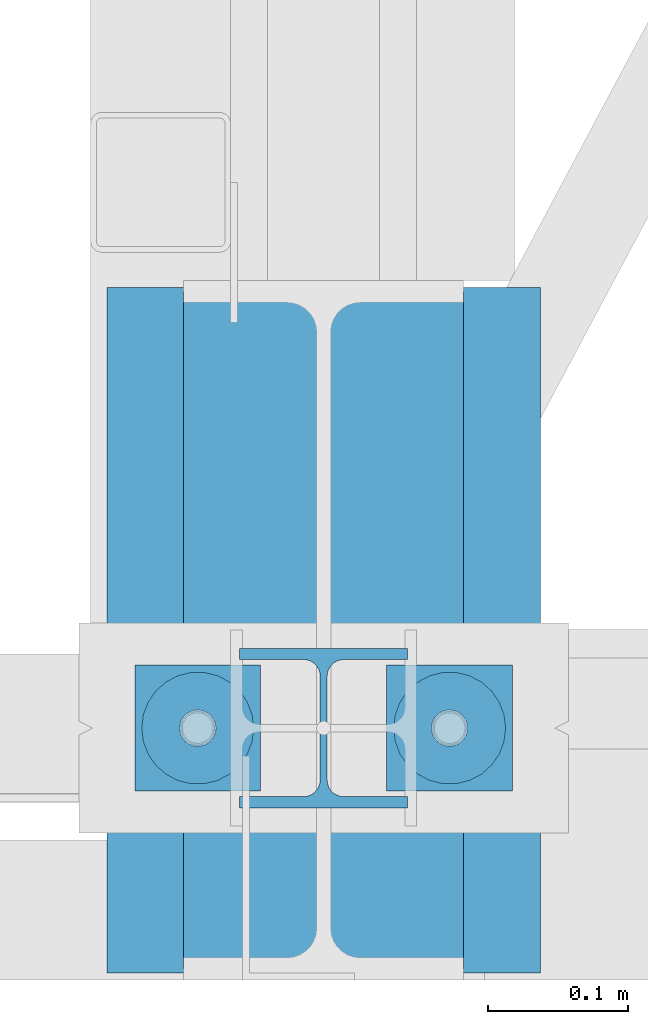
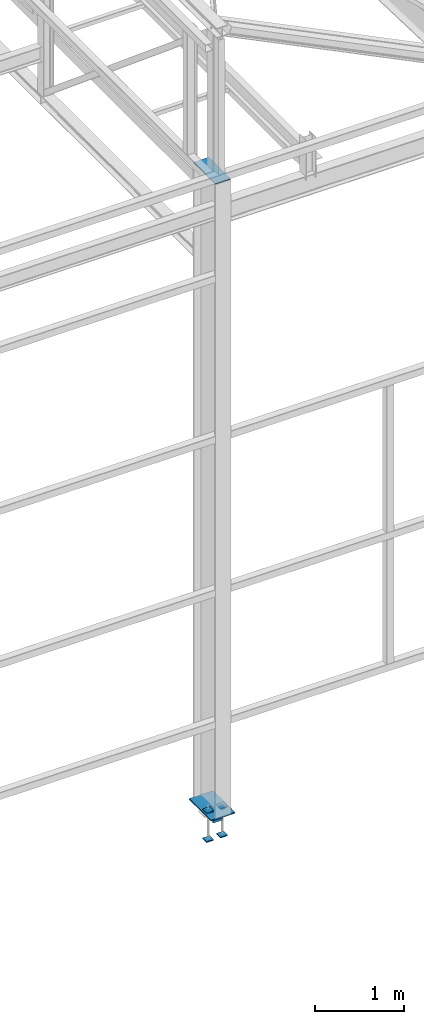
# One storey, part 86 of 123: 7 discrete accessories, 3 mechanical fasteners, 3 elements without a shape of their own.
"""IFC2X3 building model written with IfcOpenShell, lengths in millimetres."""

from ifc_helpers import new_model, si_unit, frame, origin_with_axes, origin_2d_with_axis, place, context, subcontext, project, spatial, polyline, circle, i_section, outline, extrude, source, transform, mapped, material, type_object, element, aggregate, save


model = new_model("IFC2X3")

# Units and contexts
model_context = context("Model", 3, precision=1e-05, world=origin_with_axes())
body_context = subcontext(model_context, "Body", "Model", "MODEL_VIEW")
ifc_project = project(units=[si_unit("LENGTHUNIT", "METRE", prefix="MILLI"), si_unit("AREAUNIT", "SQUARE_METRE"), si_unit("VOLUMEUNIT", "CUBIC_METRE"), si_unit("MASSUNIT", "GRAM", prefix="KILO"), si_unit("TIMEUNIT", "SECOND"), si_unit("PLANEANGLEUNIT", "RADIAN"), si_unit("SOLIDANGLEUNIT", "STERADIAN"), si_unit("THERMODYNAMICTEMPERATUREUNIT", "DEGREE_CELSIUS"), si_unit("LUMINOUSINTENSITYUNIT", "LUMEN")], contexts=[model_context])

# Site, building, storey
site_placement = place(None, origin_with_axes())
site = spatial("IfcSite", under=ifc_project, at=site_placement, Name="Undefined", CompositionType="ELEMENT")
building_placement = place(site_placement, origin_with_axes())
building = spatial("IfcBuilding", under=site, at=building_placement, Name="Undefined", CompositionType="ELEMENT")
storey_placement = place(building_placement, origin_with_axes())
storey = spatial("IfcBuildingStorey", under=building, at=storey_placement, Name="Undefined", CompositionType="ELEMENT", Elevation=0.0)

# Assembly, discrete accessory
assembly_1_placement = place(storey_placement, origin_with_axes())
assembly_1 = element("IfcElementAssembly", 1, at=assembly_1_placement, inside=storey, Name="Steel Assembly", AssemblyPlace="NOTDEFINED", PredefinedType="RIGID_FRAME")
ifc_material_1 = material(Name="STEEL/S275-E28")
discrete_accessory_type_1 = type_object("IfcDiscreteAccessoryType", Name="BECHE")
discrete_accessory_1_placement = place(assembly_1_placement, frame((34280.0000000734, 0.0, -260.0), z_axis=(0.0, -1.0, 0.0), x_axis=(0.0, 0.0, -1.0)))
discrete_accessory_1 = element("IfcDiscreteAccessory", 2, at=discrete_accessory_1_placement, type_object=discrete_accessory_type_1, material=ifc_material_1, Name="BECHE", ObjectType="HEA120", context=body_context, shape_type="SweptSolid", body=[
    extrude(i_section(OverallWidth=120.0, OverallDepth=114.0, WebThickness=5.0, FlangeThickness=8.0, FilletRadius=12.0, at=origin_2d_with_axis()), frame((120.0, 0.0, 0.0), z_axis=(-1.0, 0.0, 0.0), x_axis=(0.0, -1.0, 0.0)), (0.0, 0.0, 1.0), 120.0),
])

# Assembly, mechanical fasteners
assembly_2_placement = place(storey_placement, origin_with_axes())
assembly_2 = element("IfcElementAssembly", 3, at=assembly_2_placement, inside=storey, Name="Steel Assembly", AssemblyPlace="NOTDEFINED", PredefinedType="RIGID_FRAME")
ifc_material_2 = material(Name="6.8")
discrete_accessory_type_2 = type_object("IfcDiscreteAccessoryType", Name="Bolt assembly")
shared_shape_1 = source(origin_with_axes(), body_context, "Body", "SweptSolid", [
    extrude(circle(Radius=40.0, at=origin_2d_with_axis()), frame((0.0, -15.0, 0.0), z_axis=(0.0, 1.0, 0.0), x_axis=(1.0, 0.0, 0.0)), (0.0, 0.0, 1.0), 15.1),
])
mechanical_fastener_1_placement = place(assembly_2_placement, frame((34189.9971504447, 0.0, -250.0), z_axis=(0.0, 1.0, 0.0), x_axis=(1.0, 0.0, 0.0)))
mechanical_fastener_1 = element("IfcMechanicalFastener", 4, at=mechanical_fastener_1_placement, type_object=discrete_accessory_type_2, material=ifc_material_2, Name="Bolt assembly", NominalDiameter=30.0, NominalLength=15.0, context=body_context, shape_type="MappedRepresentation", body=[
    mapped(shared_shape_1, transform((0.0, 0.0, 0.0))),
])
mechanical_fastener_2_placement = place(assembly_2_placement, frame((34369.9971504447, 0.0, -250.0), z_axis=(0.0, -1.0, 0.0), x_axis=(-1.0, 0.0, 0.0)))
mechanical_fastener_2 = element("IfcMechanicalFastener", 5, at=mechanical_fastener_2_placement, type_object=discrete_accessory_type_2, material=ifc_material_2, Name="Bolt assembly", NominalDiameter=30.0, NominalLength=15.0, context=body_context, shape_type="MappedRepresentation", body=[
    mapped(shared_shape_1, transform((0.0, 0.0, 0.0))),
])

# Assembly, discrete accessory
assembly_3_placement = place(storey_placement, origin_with_axes())
assembly_3 = element("IfcElementAssembly", 6, at=assembly_3_placement, inside=storey, Name="Steel Assembly", AssemblyPlace="NOTDEFINED", PredefinedType="RIGID_FRAME")
ifc_material_3 = material(Name="STEEL/S235-E24")
discrete_accessory_type_3 = type_object("IfcDiscreteAccessoryType", Name="COIFFE")
discrete_accessory_2_placement = place(assembly_3_placement, frame((34280.0, 312.0, 8445.0), z_axis=(0.0, 0.0, 1.0), x_axis=(0.0, -1.0, 0.0)))
discrete_accessory_2 = element("IfcDiscreteAccessory", 7, at=discrete_accessory_2_placement, type_object=discrete_accessory_type_3, material=ifc_material_3, Name="COIFFE", ObjectType="PL10*200", context=body_context, shape_type="SweptSolid", body=[
    extrude(outline(polyline([(484.0, -100.0), (0.0, -100.0), (0.0, 100.0), (484.0, 100.0), (484.0, -100.0)])), frame((0.0, 0.0, -5.0), z_axis=(0.0, 0.0, 1.0), x_axis=(1.0, 0.0, 0.0)), (0.0, 0.0, 1.0), 10.0),
])
aggregate(assembly_3, [discrete_accessory_2])

# Discrete accessory
discrete_accessory_type_4 = type_object("IfcDiscreteAccessoryType", Name="PLATINE")
discrete_accessory_3_placement = place(assembly_2_placement, frame((34434.9971504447, 70.0, -242.5), z_axis=(0.0, 0.0, 1.0), x_axis=(-1.0, 0.0, 0.0)))
discrete_accessory_3 = element("IfcDiscreteAccessory", 8, at=discrete_accessory_3_placement, type_object=discrete_accessory_type_4, material=ifc_material_3, Name="PLATINE", ObjectType="PL15*490", context=body_context, shape_type="SweptSolid", body=[
    extrude(outline(polyline([(310.0, 245.0), (310.0, -245.0), (0.0, -245.0), (0.0, 245.0), (310.0, 245.0)])), frame((0.0, 0.0, -7.5), z_axis=(0.0, 0.0, 1.0), x_axis=(1.0, 0.0, 0.0)), (0.0, 0.0, 1.0), 15.0),
])

aggregate(assembly_2, [mechanical_fastener_1, mechanical_fastener_2, discrete_accessory_3])

# Mechanical fastener
shared_shape_2 = source(origin_with_axes(), body_context, "Body", "SweptSolid", [
    extrude(circle(Radius=13.0, at=origin_2d_with_axis()), frame((0.0, 0.0, 0.0), z_axis=(0.0, 1.0, 0.0), x_axis=(1.0, 0.0, 0.0)), (0.0, 0.0, 1.0), 10.1),
])
mechanical_fastener_3_placement = place(assembly_1_placement, frame((34280.0000000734, 0.0, -250.0), z_axis=(-1.0, 0.0, 0.0), x_axis=(0.0, 1.0, 0.0)))
mechanical_fastener_3 = element("IfcMechanicalFastener", 9, at=mechanical_fastener_3_placement, type_object=discrete_accessory_type_2, material=ifc_material_2, Name="Bolt assembly", NominalDiameter=24.0, NominalLength=10.0, context=body_context, shape_type="MappedRepresentation", body=[
    mapped(shared_shape_2, transform((-4.00177668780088e-11, 0.0, -90.0))),
    mapped(shared_shape_2, transform((4.00177668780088e-11, 0.0, 90.0))),
])

# Discrete accessory
discrete_accessory_type_5 = type_object("IfcDiscreteAccessoryType", Name="PLAQUETTE")
discrete_accessory_4_placement = place(assembly_1_placement, frame((34234.9971504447, -45.0, -227.5), z_axis=(0.0, 0.0, 1.0), x_axis=(0.0, 1.0, 0.0)))
discrete_accessory_4 = element("IfcDiscreteAccessory", 10, at=discrete_accessory_4_placement, type_object=discrete_accessory_type_5, material=ifc_material_3, Name="PLAQUETTE", ObjectType="PL15*90", context=body_context, shape_type="SweptSolid", body=[
    extrude(outline(polyline([(0.0, 0.0), (90.0, 0.0), (90.0, 90.0), (0.0, 90.0), (0.0, 0.0)])), frame((0.0, 0.0, -7.5), z_axis=(0.0, 0.0, 1.0), x_axis=(1.0, 0.0, 0.0)), (0.0, 0.0, 1.0), 15.0),
])

discrete_accessory_5_placement = place(assembly_1_placement, frame((34414.9971504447, -45.0, -227.5), z_axis=(0.0, 0.0, 1.0), x_axis=(0.0, 1.0, 0.0)))
discrete_accessory_5 = element("IfcDiscreteAccessory", 11, at=discrete_accessory_5_placement, type_object=discrete_accessory_type_5, material=ifc_material_3, Name="PLAQUETTE", ObjectType="PL15*90", context=body_context, shape_type="SweptSolid", body=[
    extrude(outline(polyline([(0.0, 0.0), (90.0, 0.0), (90.0, 90.0), (0.0, 90.0), (0.0, 0.0)])), frame((0.0, 0.0, -7.5), z_axis=(0.0, 0.0, 1.0), x_axis=(1.0, 0.0, 0.0)), (0.0, 0.0, 1.0), 15.0),
])

discrete_accessory_6_placement = place(assembly_1_placement, frame((34234.9971504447, -45.0, -622.5), z_axis=(0.0, 0.0, 1.0), x_axis=(0.0, 1.0, 0.0)))
discrete_accessory_6 = element("IfcDiscreteAccessory", 12, at=discrete_accessory_6_placement, type_object=discrete_accessory_type_5, material=ifc_material_3, Name="PLAQUETTE", ObjectType="PL15*90", context=body_context, shape_type="SweptSolid", body=[
    extrude(outline(polyline([(0.0, 0.0), (90.0, 0.0), (90.0, 90.0), (0.0, 90.0), (0.0, 0.0)])), frame((0.0, 0.0, -7.5), z_axis=(0.0, 0.0, 1.0), x_axis=(1.0, 0.0, 0.0)), (0.0, 0.0, 1.0), 15.0),
])

discrete_accessory_7_placement = place(assembly_1_placement, frame((34414.9971504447, -45.0, -622.5), z_axis=(0.0, 0.0, 1.0), x_axis=(0.0, 1.0, 0.0)))
discrete_accessory_7 = element("IfcDiscreteAccessory", 13, at=discrete_accessory_7_placement, type_object=discrete_accessory_type_5, material=ifc_material_3, Name="PLAQUETTE", ObjectType="PL15*90", context=body_context, shape_type="SweptSolid", body=[
    extrude(outline(polyline([(0.0, 0.0), (90.0, 0.0), (90.0, 90.0), (0.0, 90.0), (0.0, 0.0)])), frame((0.0, 0.0, -7.5), z_axis=(0.0, 0.0, 1.0), x_axis=(1.0, 0.0, 0.0)), (0.0, 0.0, 1.0), 15.0),
])

aggregate(assembly_1, [discrete_accessory_1, mechanical_fastener_3, discrete_accessory_4, discrete_accessory_5, discrete_accessory_6, discrete_accessory_7])

save(model, "model.ifc")
